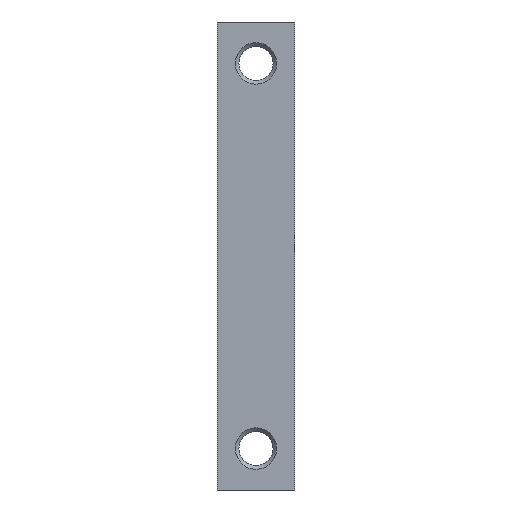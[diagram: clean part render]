
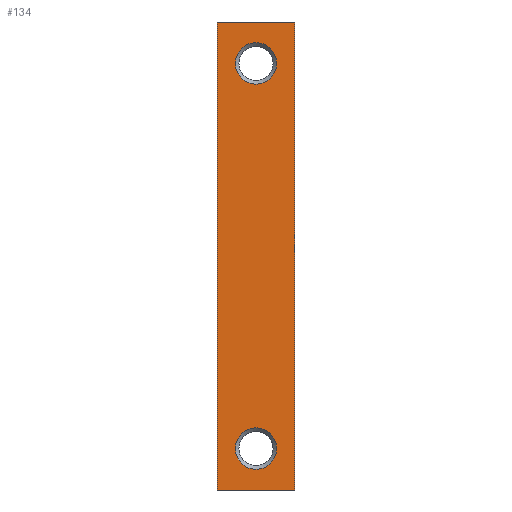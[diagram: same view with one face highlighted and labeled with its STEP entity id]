
A CAD part, left-side view. The second image highlights one B-rep face of the part: STEP entity #134.
In plain terms, the highlighted planar face has unit normal (-1, 0, 0).
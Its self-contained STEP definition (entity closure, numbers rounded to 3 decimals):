
#134=ADVANCED_FACE('',(#276,#277,#278),#189,.T.);
#189=PLANE('',#1243);
#239=CIRCLE('',#1241,2.);
#240=CIRCLE('',#1242,2.);
#276=FACE_BOUND('',#348,.T.);
#277=FACE_BOUND('',#349,.T.);
#278=FACE_BOUND('',#350,.T.);
#348=EDGE_LOOP('',(#570));
#349=EDGE_LOOP('',(#571));
#350=EDGE_LOOP('',(#572,#573,#574,#575));
#570=ORIENTED_EDGE('',*,*,#955,.T.);
#571=ORIENTED_EDGE('',*,*,#956,.T.);
#572=ORIENTED_EDGE('',*,*,#928,.T.);
#573=ORIENTED_EDGE('',*,*,#864,.F.);
#574=ORIENTED_EDGE('',*,*,#897,.F.);
#575=ORIENTED_EDGE('',*,*,#877,.T.);
#750=VERTEX_POINT('',#1684);
#752=VERTEX_POINT('',#1688);
#763=VERTEX_POINT('',#1714);
#764=VERTEX_POINT('',#1716);
#817=VERTEX_POINT('',#1890);
#818=VERTEX_POINT('',#1892);
#864=EDGE_CURVE('',#752,#750,#1016,.T.);
#877=EDGE_CURVE('',#763,#764,#1027,.T.);
#897=EDGE_CURVE('',#763,#752,#1038,.T.);
#928=EDGE_CURVE('',#764,#750,#1053,.T.);
#955=EDGE_CURVE('',#817,#817,#239,.T.);
#956=EDGE_CURVE('',#818,#818,#240,.T.);
#1016=LINE('',#1689,#1110);
#1027=LINE('',#1717,#1121);
#1038=LINE('',#1783,#1133);
#1053=LINE('',#1841,#1148);
#1110=VECTOR('',#1344,1.);
#1121=VECTOR('',#1365,1.);
#1133=VECTOR('',#1389,1.);
#1148=VECTOR('',#1438,1.);
#1241=AXIS2_PLACEMENT_3D('',#1889,#1491,#1492);
#1242=AXIS2_PLACEMENT_3D('',#1891,#1493,#1494);
#1243=AXIS2_PLACEMENT_3D('',#1893,#1495,#1496);
#1344=DIRECTION('',(0.,1.,0.));
#1365=DIRECTION('',(0.,1.,0.));
#1389=DIRECTION('',(0.,0.,-1.));
#1438=DIRECTION('',(0.,0.,-1.));
#1491=DIRECTION('',(1.,0.,0.));
#1492=DIRECTION('',(0.,0.,1.));
#1493=DIRECTION('',(1.,0.,0.));
#1494=DIRECTION('',(0.,0.,1.));
#1495=DIRECTION('',(-1.,0.,0.));
#1496=DIRECTION('',(0.,-1.,0.));
#1684=CARTESIAN_POINT('',(-35.355,63.536,44.1));
#1688=CARTESIAN_POINT('',(-35.355,56.036,44.1));
#1689=CARTESIAN_POINT('',(-35.355,47.036,44.1));
#1714=CARTESIAN_POINT('',(-35.355,56.036,89.249));
#1716=CARTESIAN_POINT('',(-35.355,63.536,89.249));
#1717=CARTESIAN_POINT('',(-35.355,56.036,89.249));
#1783=CARTESIAN_POINT('',(-35.355,56.036,51.1));
#1841=CARTESIAN_POINT('',(-35.355,63.536,51.1));
#1889=CARTESIAN_POINT('',(-35.355,59.786,85.249));
#1890=CARTESIAN_POINT('',(-35.355,59.786,87.249));
#1891=CARTESIAN_POINT('',(-35.355,59.786,48.1));
#1892=CARTESIAN_POINT('',(-35.355,59.786,50.1));
#1893=CARTESIAN_POINT('',(-35.355,0.,1.));
